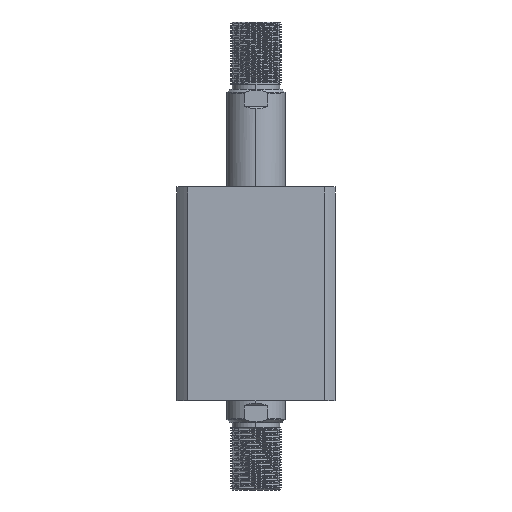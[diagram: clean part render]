
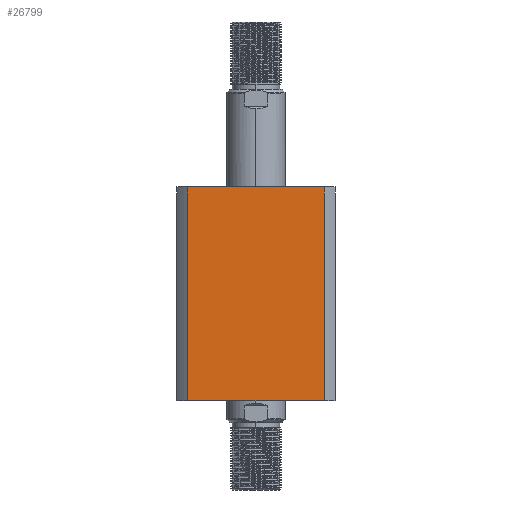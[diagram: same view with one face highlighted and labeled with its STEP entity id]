
A CAD part, left-side view. The second image highlights one B-rep face of the part: STEP entity #26799.
In plain terms, the highlighted planar face has unit normal (-1, 0, 0).
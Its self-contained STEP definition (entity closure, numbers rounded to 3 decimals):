
#306 = CARTESIAN_POINT ( 'NONE',  ( -47., 47., 0. ) ) ;
#1028 = ORIENTED_EDGE ( 'NONE', *, *, #19277, .T. ) ;
#1581 = DIRECTION ( 'NONE',  ( 0., 0., 1. ) ) ;
#2119 = LINE ( 'NONE', #27103, #7136 ) ;
#2726 = PLANE ( 'NONE',  #3179 ) ;
#3179 = AXIS2_PLACEMENT_3D ( 'NONE', #11246, #7017, #21913 ) ;
#5104 = LINE ( 'NONE', #306, #9442 ) ;
#5516 = CARTESIAN_POINT ( 'NONE',  ( -47., 40.435, 0. ) ) ;
#6012 = CARTESIAN_POINT ( 'NONE',  ( -47., 47., 127. ) ) ;
#6295 = CARTESIAN_POINT ( 'NONE',  ( -47., -40.435, 0. ) ) ;
#7017 = DIRECTION ( 'NONE',  ( 1., 0., 0. ) ) ;
#7136 = VECTOR ( 'NONE', #1581, 1000. ) ;
#7172 = CARTESIAN_POINT ( 'NONE',  ( -47., 40.435, 127. ) ) ;
#7982 = CARTESIAN_POINT ( 'NONE',  ( -47., -40.435, 127. ) ) ;
#8747 = VERTEX_POINT ( 'NONE', #5516 ) ;
#9442 = VECTOR ( 'NONE', #15237, 1000. ) ;
#11246 = CARTESIAN_POINT ( 'NONE',  ( -47., 47., 127. ) ) ;
#11607 = ORIENTED_EDGE ( 'NONE', *, *, #21277, .F. ) ;
#11760 = LINE ( 'NONE', #22654, #22391 ) ;
#12910 = ORIENTED_EDGE ( 'NONE', *, *, #26329, .F. ) ;
#14470 = FACE_OUTER_BOUND ( 'NONE', #26248, .T. ) ;
#15237 = DIRECTION ( 'NONE',  ( 0., -1., 0. ) ) ;
#19277 = EDGE_CURVE ( 'NONE', #8747, #19775, #5104, .T. ) ;
#19775 = VERTEX_POINT ( 'NONE', #6295 ) ;
#20927 = DIRECTION ( 'NONE',  ( 0., -1., 0. ) ) ;
#21277 = EDGE_CURVE ( 'NONE', #24404, #19775, #11760, .T. ) ;
#21913 = DIRECTION ( 'NONE',  ( 0., 1., 0. ) ) ;
#22391 = VECTOR ( 'NONE', #22747, 1000. ) ;
#22654 = CARTESIAN_POINT ( 'NONE',  ( -47., -40.435, 800. ) ) ;
#22747 = DIRECTION ( 'NONE',  ( 0., 0., -1. ) ) ;
#24227 = ORIENTED_EDGE ( 'NONE', *, *, #24545, .F. ) ;
#24404 = VERTEX_POINT ( 'NONE', #7982 ) ;
#24545 = EDGE_CURVE ( 'NONE', #25775, #24404, #25495, .T. ) ;
#25495 = LINE ( 'NONE', #6012, #26848 ) ;
#25775 = VERTEX_POINT ( 'NONE', #7172 ) ;
#26248 = EDGE_LOOP ( 'NONE', ( #11607, #24227, #12910, #1028 ) ) ;
#26329 = EDGE_CURVE ( 'NONE', #8747, #25775, #2119, .T. ) ;
#26799 = ADVANCED_FACE ( 'NONE', ( #14470 ), #2726, .F. ) ;
#26848 = VECTOR ( 'NONE', #20927, 1000. ) ;
#27103 = CARTESIAN_POINT ( 'NONE',  ( -47., 40.435, 800. ) ) ;
